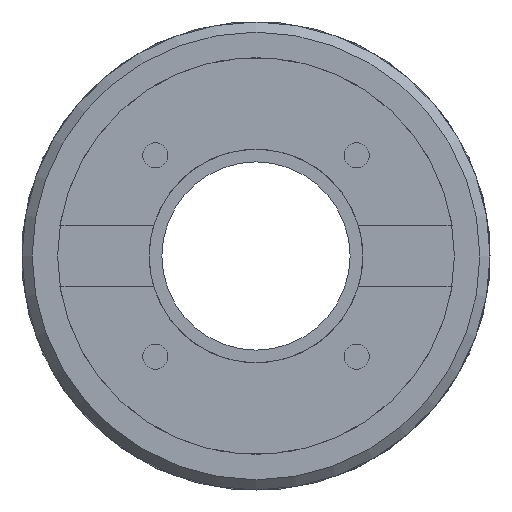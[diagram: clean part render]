
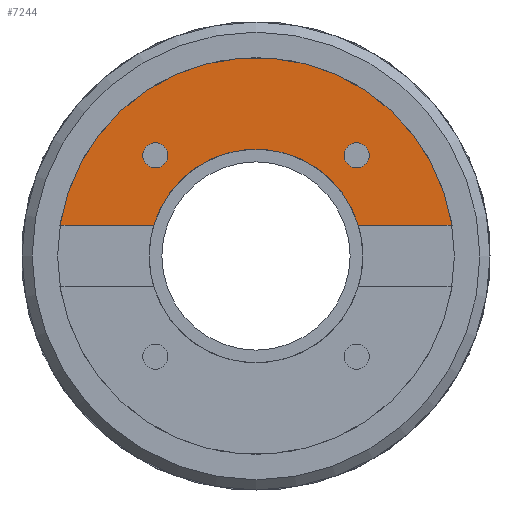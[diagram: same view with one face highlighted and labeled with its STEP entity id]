
A CAD part, left-side view. The second image highlights one B-rep face of the part: STEP entity #7244.
In plain terms, the highlighted planar face has unit normal (-1, 0, 0).
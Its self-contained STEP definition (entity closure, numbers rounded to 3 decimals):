
#308=FACE_BOUND('',#1591,.T.);
#309=FACE_BOUND('',#1592,.T.);
#629=CIRCLE('',#7923,21.);
#632=CIRCLE('',#7927,39.);
#635=CIRCLE('',#7932,2.459);
#636=CIRCLE('',#7933,2.459);
#1190=FACE_OUTER_BOUND('',#1590,.T.);
#1590=EDGE_LOOP('',(#4893,#4894,#4895,#4896));
#1591=EDGE_LOOP('',(#4897));
#1592=EDGE_LOOP('',(#4898));
#2062=LINE('',#11440,#2510);
#2066=LINE('',#11447,#2514);
#2510=VECTOR('',#8959,10.);
#2514=VECTOR('',#8965,10.);
#2961=VERTEX_POINT('',#11437);
#2962=VERTEX_POINT('',#11439);
#2963=VERTEX_POINT('',#11443);
#2964=VERTEX_POINT('',#11445);
#2966=VERTEX_POINT('',#11461);
#2967=VERTEX_POINT('',#11463);
#3727=EDGE_CURVE('',#2962,#2961,#2062,.T.);
#3731=EDGE_CURVE('',#2963,#2964,#2066,.T.);
#3734=EDGE_CURVE('',#2961,#2963,#629,.T.);
#3737=EDGE_CURVE('',#2962,#2964,#632,.T.);
#3740=EDGE_CURVE('',#2966,#2966,#635,.T.);
#3741=EDGE_CURVE('',#2967,#2967,#636,.T.);
#4893=ORIENTED_EDGE('',*,*,#3731,.T.);
#4894=ORIENTED_EDGE('',*,*,#3737,.F.);
#4895=ORIENTED_EDGE('',*,*,#3727,.T.);
#4896=ORIENTED_EDGE('',*,*,#3734,.T.);
#4897=ORIENTED_EDGE('',*,*,#3740,.T.);
#4898=ORIENTED_EDGE('',*,*,#3741,.T.);
#7127=PLANE('',#7931);
#7244=ADVANCED_FACE('',(#1190,#308,#309),#7127,.T.);
#7923=AXIS2_PLACEMENT_3D('',#11452,#8971,#8972);
#7927=AXIS2_PLACEMENT_3D('',#11456,#8979,#8980);
#7931=AXIS2_PLACEMENT_3D('',#11460,#8987,#8988);
#7932=AXIS2_PLACEMENT_3D('',#11462,#8989,#8990);
#7933=AXIS2_PLACEMENT_3D('',#11464,#8991,#8992);
#8959=DIRECTION('',(0.,-1.,0.));
#8965=DIRECTION('',(0.,-1.,0.));
#8971=DIRECTION('center_axis',(1.,0.,0.));
#8972=DIRECTION('ref_axis',(0.,0.,-1.));
#8979=DIRECTION('center_axis',(1.,0.,0.));
#8980=DIRECTION('ref_axis',(0.,0.,-1.));
#8987=DIRECTION('center_axis',(-1.,0.,0.));
#8988=DIRECTION('ref_axis',(0.,0.,1.));
#8989=DIRECTION('center_axis',(1.,0.,0.));
#8990=DIRECTION('ref_axis',(0.,0.,1.));
#8991=DIRECTION('center_axis',(1.,0.,0.));
#8992=DIRECTION('ref_axis',(0.,0.,1.));
#11437=CARTESIAN_POINT('',(-25.,20.125,6.));
#11439=CARTESIAN_POINT('',(-25.,38.536,6.));
#11440=CARTESIAN_POINT('',(-25.,38.768,6.));
#11443=CARTESIAN_POINT('',(-25.,-20.125,6.));
#11445=CARTESIAN_POINT('',(-25.,-38.536,6.));
#11447=CARTESIAN_POINT('',(-25.,38.768,6.));
#11452=CARTESIAN_POINT('Origin',(-25.,0.,0.));
#11456=CARTESIAN_POINT('Origin',(-25.,0.,0.));
#11460=CARTESIAN_POINT('Origin',(-25.,39.,0.));
#11461=CARTESIAN_POINT('',(-25.,19.799,17.34));
#11462=CARTESIAN_POINT('Origin',(-25.,19.799,19.799));
#11463=CARTESIAN_POINT('',(-25.,-19.799,17.34));
#11464=CARTESIAN_POINT('Origin',(-25.,-19.799,19.799));
